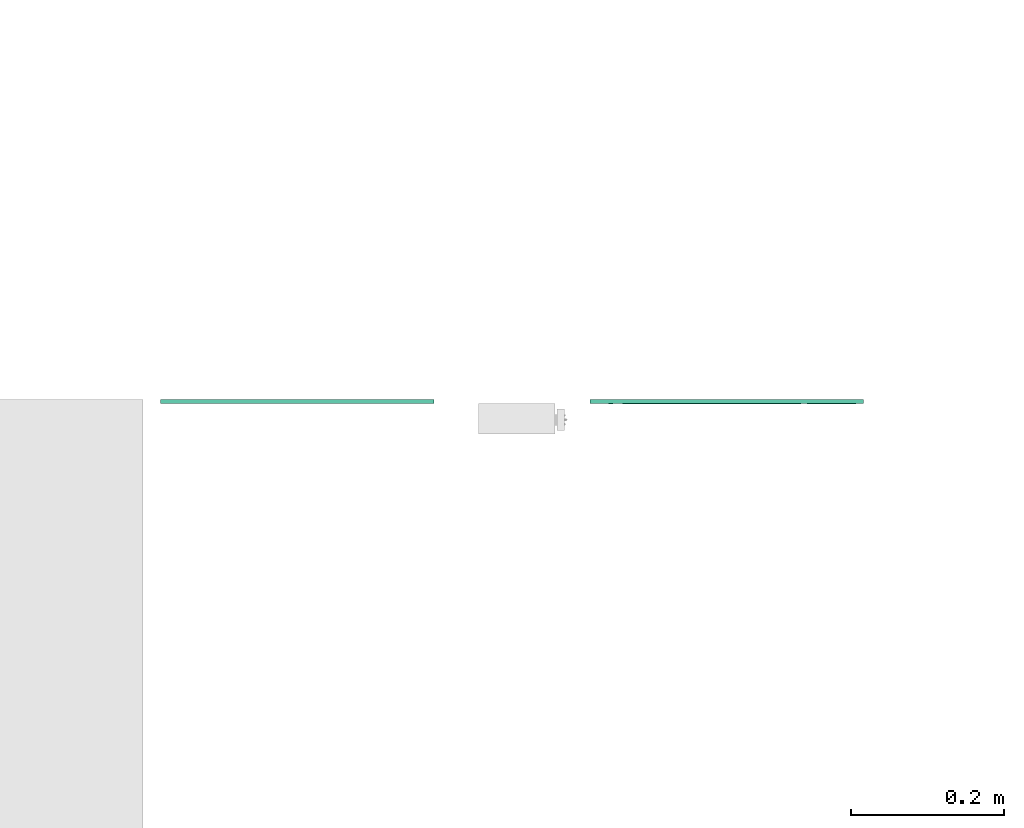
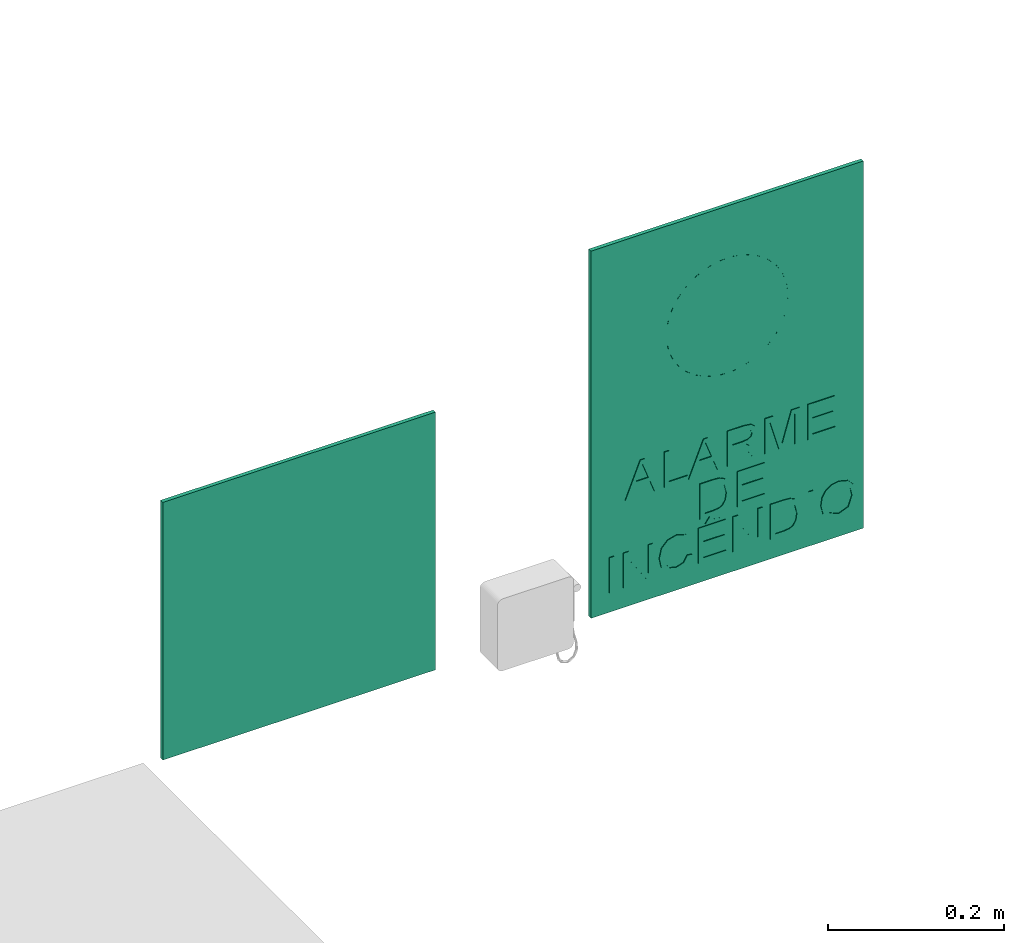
# One storey, part 3 of 9: 2 flow terminals.
"""IFC2X3 building model written with IfcOpenShell, lengths in metres."""

from ifc_helpers import new_model, entity, si_unit, converted_unit, derived_unit, direction, frame, frame_2d, origin, place, context, subcontext, project, spatial, polyline, circle_curve, parameter, trimmed, segment, composite_curve, rectangle, circle, hollow_circle, outline, extrude, source, transform, mapped, material, material_list, type_object, type_shapes, element, save


model = new_model("IFC2X3")

# Units and contexts
model_context = context("Model", 3, precision=1e-05, world=origin(), true_north=direction((6.12303176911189e-17, 1.0)))
body_context = subcontext(model_context, "Body", "Model", "MODEL_VIEW")
ifc_project = project(units=[si_unit("LENGTHUNIT", "METRE"), si_unit("AREAUNIT", "SQUARE_METRE"), si_unit("VOLUMEUNIT", "CUBIC_METRE"), converted_unit("PLANEANGLEUNIT", "DEGREE", entity("IfcRatioMeasure", 0.0174532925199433), si_unit("PLANEANGLEUNIT", "RADIAN"), dimensions=[0, 0, 0, 0, 0, 0, 0]), si_unit("MASSUNIT", "GRAM", prefix="KILO"), derived_unit("MASSDENSITYUNIT", [(si_unit("MASSUNIT", "GRAM", prefix="KILO"), 1), (si_unit("LENGTHUNIT", "METRE"), -3)]), derived_unit("MOMENTOFINERTIAUNIT", [(si_unit("LENGTHUNIT", "METRE"), 4)]), si_unit("TIMEUNIT", "SECOND"), si_unit("FREQUENCYUNIT", "HERTZ"), si_unit("THERMODYNAMICTEMPERATUREUNIT", "DEGREE_CELSIUS"), derived_unit("THERMALTRANSMITTANCEUNIT", [(si_unit("MASSUNIT", "GRAM", prefix="KILO"), 1), (si_unit("THERMODYNAMICTEMPERATUREUNIT", "KELVIN"), -1), (si_unit("TIMEUNIT", "SECOND"), -3)]), derived_unit("VOLUMETRICFLOWRATEUNIT", [(si_unit("LENGTHUNIT", "METRE"), 3), (si_unit("TIMEUNIT", "SECOND"), -1)]), si_unit("ELECTRICCURRENTUNIT", "AMPERE"), si_unit("ELECTRICVOLTAGEUNIT", "VOLT"), si_unit("POWERUNIT", "WATT"), si_unit("FORCEUNIT", "NEWTON", prefix="KILO"), si_unit("ILLUMINANCEUNIT", "LUX"), si_unit("LUMINOUSFLUXUNIT", "LUMEN"), si_unit("LUMINOUSINTENSITYUNIT", "CANDELA"), derived_unit("USERDEFINED", [(si_unit("MASSUNIT", "GRAM", prefix="KILO"), -1), (si_unit("LENGTHUNIT", "METRE"), -2), (si_unit("TIMEUNIT", "SECOND"), 3), (si_unit("LUMINOUSFLUXUNIT", "LUMEN"), 1)]), derived_unit("LINEARVELOCITYUNIT", [(si_unit("LENGTHUNIT", "METRE"), 1), (si_unit("TIMEUNIT", "SECOND"), -1)]), si_unit("PRESSUREUNIT", "PASCAL"), derived_unit("USERDEFINED", [(si_unit("LENGTHUNIT", "METRE"), -2), (si_unit("MASSUNIT", "GRAM", prefix="KILO"), 1), (si_unit("TIMEUNIT", "SECOND"), -2)]), derived_unit("LINEARFORCEUNIT", [(si_unit("MASSUNIT", "GRAM", prefix="KILO"), 1), (si_unit("LENGTHUNIT", "METRE"), 1), (si_unit("TIMEUNIT", "SECOND"), -2), (si_unit("LENGTHUNIT", "METRE"), -1)]), derived_unit("PLANARFORCEUNIT", [(si_unit("MASSUNIT", "GRAM", prefix="KILO"), 1), (si_unit("LENGTHUNIT", "METRE"), 1), (si_unit("TIMEUNIT", "SECOND"), -2), (si_unit("LENGTHUNIT", "METRE"), -2)])], contexts=[model_context])

# Site, building, storey
site_placement = place(None, origin())
site = spatial("IfcSite", under=ifc_project, at=site_placement, Name="Default", CompositionType="ELEMENT")
building_placement = place(site_placement, origin())
building = spatial("IfcBuilding", under=site, at=building_placement, Name="C.L. MONSENHOR ANTÔNIO SAMPAIO", CompositionType="ELEMENT")
storey_placement = place(building_placement, origin())
storey = spatial("IfcBuildingStorey", under=building, at=storey_placement, Name="TÉRREO", CompositionType="ELEMENT", Elevation=0.0)

# Flow terminals
ifc_material_1 = material(Name="VERMELHO")
ifc_material_2 = material(Name="Branco")
ifc_material_list_1 = material_list([ifc_material_1, ifc_material_2])
distribution_element_type_1 = type_object("IfcDistributionElementType", Name="E2:10 metros", material=ifc_material_1)
shared_shape_1 = source(origin(), body_context, "Body", "SweptSolid", [
    extrude(outline(polyline([(-0.115, -0.115), (0.115, -0.115), (0.115, 0.115), (-0.115, 0.115), (-0.115, -0.115)]), holes=[polyline([(-0.0969999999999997, 0.097), (0.0969999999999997, 0.097), (0.0969999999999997, -0.097), (-0.0969999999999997, -0.097), (-0.0969999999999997, 0.097)])]), frame((0.0, -0.005, 0.353240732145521), z_axis=(0.0, 1.0, 0.0), x_axis=(0.0, 0.0, -1.0)), (0.0, 0.0, 1.0), 0.005),
    extrude(hollow_circle(Radius=0.08, WallThickness=0.05, at=frame_2d((3.96523122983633e-19, -4.06075173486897e-16), x_axis=(1.0, 0.0))), frame((0.0, -0.005, 0.357999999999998), z_axis=(0.0, 1.0, 0.0), x_axis=(1.0, 0.0, 0.0)), (0.0, 0.0, 1.0), 0.005),
    extrude(outline(polyline([(-0.0232588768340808, -0.0146945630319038), (0.0297491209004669, -0.0146945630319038), (0.0316918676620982, -0.00982759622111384), (-0.00674552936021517, 0.0266746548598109), (-0.00915613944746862, 0.0206355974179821), (0.0030424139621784, 0.00969678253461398), (-0.00447459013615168, -0.00913480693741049), (-0.0208482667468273, -0.00865550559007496), (-0.0232588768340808, -0.0146945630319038)]), holes=[polyline([(0.00207844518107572, -0.009317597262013), (0.00792450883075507, 0.00532795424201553), (0.0175212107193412, -0.00327813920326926), (0.0250051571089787, -0.00997968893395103), (0.0160884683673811, -0.00972047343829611), (0.00207844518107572, -0.009317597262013)])]), frame((-0.111952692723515, -0.006, 0.16473474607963), z_axis=(0.0, 1.0, 0.0), x_axis=(0.370725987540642, 0.0, 0.92874229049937)), (0.0, 0.0, 1.0), 0.006),
    extrude(outline(polyline([(-0.0184615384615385, -0.0123076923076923), (0.0307692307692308, -0.0123076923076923), (0.0307692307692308, -0.00615384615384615), (-0.0123076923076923, -0.00615384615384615), (-0.0123076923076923, 0.0184615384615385), (-0.0184615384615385, 0.0184615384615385), (-0.0184615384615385, -0.0123076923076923)])), frame((-0.0707973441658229, -0.006, 0.167042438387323), z_axis=(0.0, 1.0, 0.0), x_axis=(0.0, 0.0, 1.0)), (0.0, 0.0, 1.0), 0.006),
    extrude(outline(polyline([(-0.0232588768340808, -0.0146945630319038), (0.0297491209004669, -0.0146945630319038), (0.0316918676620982, -0.00982759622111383), (-0.00674552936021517, 0.0266746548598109), (-0.00915613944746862, 0.0206355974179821), (0.0030424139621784, 0.00969678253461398), (-0.00447459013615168, -0.00913480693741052), (-0.0208482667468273, -0.00865550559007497), (-0.0232588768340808, -0.0146945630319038)]), holes=[polyline([(0.00207844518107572, -0.00931759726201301), (0.00792450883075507, 0.00532795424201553), (0.0175212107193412, -0.00327813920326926), (0.0250051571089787, -0.00997968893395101), (0.0160884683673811, -0.00972047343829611), (0.00207844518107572, -0.00931759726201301)])]), frame((-0.0288757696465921, -0.006, 0.16473474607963), z_axis=(0.0, 1.0, 0.0), x_axis=(0.370725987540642, 0.0, 0.92874229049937)), (0.0, 0.0, 1.0), 0.006),
    extrude(outline(polyline([(-0.0220657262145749, -0.0231072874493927), (0.0271650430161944, -0.0231072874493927), (0.0271650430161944, -0.0018933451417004), (0.0258369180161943, 0.0079564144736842), (0.0211373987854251, 0.0133410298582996), (0.0136914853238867, 0.0153542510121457), (0.00482129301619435, 0.0120189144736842), (0.000241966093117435, 0.0017124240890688), (-0.00239024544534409, 0.005210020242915), (-0.00872438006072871, 0.0101980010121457), (-0.0220657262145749, 0.0184071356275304), (-0.0220657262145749, 0.0112556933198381), (-0.0118613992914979, 0.00484944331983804), (-0.00510659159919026, 0.000222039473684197), (-0.00191548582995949, -0.00302916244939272), (-0.000743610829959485, -0.00595584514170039), (-0.000527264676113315, -0.00952555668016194), (-0.000527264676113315, -0.0169534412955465), (-0.0220657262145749, -0.0169534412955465), (-0.0220657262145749, -0.0231072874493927)]), holes=[polyline([(0.00562658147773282, -0.0169534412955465), (0.00562658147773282, -0.00317940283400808), (0.00649797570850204, 0.00384583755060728), (0.0092864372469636, 0.00783622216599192), (0.0134631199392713, 0.00920040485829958), (0.0188837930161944, 0.00659824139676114), (0.0210111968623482, -0.0016289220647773), (0.0210111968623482, -0.0169534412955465), (0.00562658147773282, -0.0169534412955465)])]), frame((0.0230791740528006, -0.006, 0.170646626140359), z_axis=(0.0, 1.0, 0.0), x_axis=(0.0, 0.0, 1.0)), (0.0, 0.0, 1.0), 0.006),
    extrude(outline(polyline([(-0.0213349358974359, -0.0227035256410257), (0.0278958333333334, -0.0227035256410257), (0.0278958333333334, -0.0121145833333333), (-0.00680368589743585, -0.00204246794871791), (-0.014051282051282, -1.12179487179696e-05), (-0.00620272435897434, 0.00218830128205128), (0.0278958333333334, 0.0120921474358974), (0.0278958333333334, 0.0226810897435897), (-0.0213349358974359, 0.0226810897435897), (-0.0213349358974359, 0.0165272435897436), (0.0217419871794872, 0.0165272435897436), (-0.0213349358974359, 0.00415945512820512), (-0.0213349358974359, -0.00418189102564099), (0.0217419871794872, -0.0165496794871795), (-0.0213349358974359, -0.0165496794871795), (-0.0213349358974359, -0.0227035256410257)])), frame((0.0719061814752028, -0.006, 0.16991583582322), z_axis=(0.0, 1.0, 0.0), x_axis=(0.0, 0.0, 1.0)), (0.0, 0.0, 1.0), 0.006),
    extrude(outline(polyline([(-0.0248717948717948, -0.0196153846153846), (0.0243589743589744, -0.0196153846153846), (0.0243589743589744, 0.0157692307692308), (0.0182051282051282, 0.0157692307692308), (0.0182051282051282, -0.0134615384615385), (0.0035897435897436, -0.0134615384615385), (0.0035897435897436, 0.0142307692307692), (-0.00256410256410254, 0.0142307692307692), (-0.00256410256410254, -0.0134615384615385), (-0.0187179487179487, -0.0134615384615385), (-0.0187179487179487, 0.0165384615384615), (-0.0248717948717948, 0.0165384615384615), (-0.0248717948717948, -0.0196153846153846)])), frame((0.124971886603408, -0.006, 0.173452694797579), z_axis=(0.0, 1.0, 0.0), x_axis=(0.0, 0.0, 1.0)), (0.0, 0.0, 1.0), 0.006),
    extrude(outline(polyline([(-0.0233603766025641, -0.0255023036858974), (0.0258703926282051, -0.0255023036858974), (0.0258703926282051, -0.00851913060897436), (0.0251612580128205, 0.000266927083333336), (0.0216396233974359, 0.00750250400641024), (0.0132261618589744, 0.0133318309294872), (0.00151943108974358, 0.0152669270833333), (-0.00841446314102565, 0.0139568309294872), (-0.0155839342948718, 0.0105914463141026), (-0.020049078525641, 0.00609625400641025), (-0.022519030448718, 0.000212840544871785), (-0.0233603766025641, -0.00770182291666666), (-0.0233603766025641, -0.0255023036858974)]), holes=[polyline([(-0.017206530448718, -0.0193484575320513), (-0.017206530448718, -0.00845903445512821), (-0.0163171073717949, -0.000538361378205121), (-0.0138050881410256, 0.00402894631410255), (-0.00769330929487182, 0.00777293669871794), (0.00161558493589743, 0.00911308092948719), (0.0132742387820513, 0.00648687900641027), (0.018730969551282, 9.86578525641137e-05), (0.019716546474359, -0.00862730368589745), (0.019716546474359, -0.0193484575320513), (-0.017206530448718, -0.0193484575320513)])]), frame((-0.0106796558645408, -0.006, 0.111172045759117), z_axis=(0.0, 1.0, 0.0), x_axis=(0.0, 0.0, 1.0)), (0.0, 0.0, 1.0), 0.006),
    extrude(outline(polyline([(-0.0248717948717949, -0.0196153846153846), (0.0243589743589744, -0.0196153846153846), (0.0243589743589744, 0.0157692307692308), (0.0182051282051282, 0.0157692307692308), (0.0182051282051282, -0.0134615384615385), (0.00358974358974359, -0.0134615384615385), (0.00358974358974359, 0.0142307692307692), (-0.00256410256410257, 0.0142307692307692), (-0.00256410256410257, -0.0134615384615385), (-0.0187179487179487, -0.0134615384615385), (-0.0187179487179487, 0.0165384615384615), (-0.0248717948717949, 0.0165384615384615), (-0.0248717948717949, -0.0196153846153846)])), frame((0.0326641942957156, -0.006, 0.112683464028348), z_axis=(0.0, 1.0, 0.0), x_axis=(0.0, 0.0, 1.0)), (0.0, 0.0, 1.0), 0.006),
    extrude(rectangle(XDim=0.006, YDim=0.00615384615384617, at=frame_2d((0.0, -1.69135538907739e-17), x_axis=(1.0, 0.0))), frame((-0.151951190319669, -0.003, 0.0270424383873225), z_axis=(0.0, 0.0, 1.0), x_axis=(0.0, 1.0, 0.0)), (0.0, 0.0, 1.0), 0.0492307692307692),
    extrude(outline(polyline([(-0.0246165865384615, -0.0192307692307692), (0.0246141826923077, -0.0192307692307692), (0.0246141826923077, -0.0126442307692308), (-0.0143882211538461, 0.0130769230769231), (0.0246141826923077, 0.0130769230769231), (0.0246141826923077, 0.0192307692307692), (-0.0246165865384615, 0.0192307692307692), (-0.0246165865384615, 0.0126442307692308), (0.0143978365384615, -0.0130769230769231), (-0.0246165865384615, -0.0130769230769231), (-0.0246165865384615, -0.0192307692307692)])), frame((-0.117335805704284, -0.006, 0.0516590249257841), z_axis=(0.0, 1.0, 0.0), x_axis=(0.0, 0.0, 1.0)), (0.0, 0.0, 1.0), 0.006),
    extrude(outline(polyline([(0.0173971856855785, 0.00315678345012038), (0.0237522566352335, 0.00315678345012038), (0.0197857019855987, 0.0169950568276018), (0.00837577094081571, 0.0243492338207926), (-0.00483237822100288, 0.0244155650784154), (-0.014444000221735, 0.0172244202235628), (-0.0202261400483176, 0.00512371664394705), (-0.0207434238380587, -0.00855775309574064), (-0.0148834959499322, -0.0190239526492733), (-0.00417070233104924, -0.0248454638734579), (0.00872193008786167, -0.0242098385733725), (0.0181494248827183, -0.0154941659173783), (0.0125565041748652, -0.0125379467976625), (0.00577939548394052, -0.0186042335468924), (-0.00286717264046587, -0.0188264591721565), (-0.011532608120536, -0.0138741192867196), (-0.0150347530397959, -0.00567282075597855), (-0.0142701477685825, 0.00357577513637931), (-0.0098254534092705, 0.0133774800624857), (-0.00253642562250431, 0.018492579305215), (0.00624589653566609, 0.0185432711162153), (0.0146026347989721, 0.0132360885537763), (0.0173971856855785, 0.00315678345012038)])), frame((-0.0687786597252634, -0.006, 0.0519424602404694), z_axis=(0.0, 1.0, 0.0), x_axis=(0.968336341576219, 0.0, -0.249649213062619)), (0.0, 0.0, 1.0), 0.006),
    extrude(outline(polyline([(-0.0248717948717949, -0.0196153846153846), (0.0243589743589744, -0.0196153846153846), (0.0243589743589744, 0.0157692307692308), (0.0182051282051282, 0.0157692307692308), (0.0182051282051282, -0.0134615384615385), (0.0035897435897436, -0.0134615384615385), (0.0035897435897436, 0.0142307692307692), (-0.00256410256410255, 0.0142307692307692), (-0.00256410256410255, -0.0134615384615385), (-0.0187179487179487, -0.0134615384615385), (-0.0187179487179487, 0.0165384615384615), (-0.0248717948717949, 0.0165384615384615), (-0.0248717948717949, -0.0196153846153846)])), frame((-0.0184896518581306, -0.006, 0.0519142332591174), z_axis=(0.0, 1.0, 0.0), x_axis=(0.0, 0.0, 1.0)), (0.0, 0.0, 1.0), 0.006),
    extrude(outline(polyline([(-0.0246165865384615, -0.0192307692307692), (0.0246141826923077, -0.0192307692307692), (0.0246141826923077, -0.0126442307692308), (-0.0143882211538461, 0.0130769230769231), (0.0246141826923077, 0.0130769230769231), (0.0246141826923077, 0.0192307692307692), (-0.0246165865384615, 0.0192307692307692), (-0.0246165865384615, 0.0126442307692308), (0.0143978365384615, -0.0130769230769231), (-0.0246165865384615, -0.0130769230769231), (-0.0246165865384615, -0.0192307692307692)])), frame((0.0265103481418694, -0.006, 0.0516590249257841), z_axis=(0.0, 1.0, 0.0), x_axis=(0.0, 0.0, 1.0)), (0.0, 0.0, 1.0), 0.006),
    extrude(outline(polyline([(-0.0233603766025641, -0.0255023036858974), (0.0258703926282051, -0.0255023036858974), (0.0258703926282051, -0.00851913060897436), (0.0251612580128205, 0.000266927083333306), (0.0216396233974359, 0.00750250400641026), (0.0132261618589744, 0.0133318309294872), (0.0015194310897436, 0.0152669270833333), (-0.00841446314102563, 0.0139568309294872), (-0.0155839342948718, 0.0105914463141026), (-0.020049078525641, 0.00609625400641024), (-0.0225190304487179, 0.000212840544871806), (-0.0233603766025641, -0.00770182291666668), (-0.0233603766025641, -0.0255023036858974)]), holes=[polyline([(-0.0172065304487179, -0.0193484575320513), (-0.0172065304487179, -0.00845903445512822), (-0.0163171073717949, -0.000538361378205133), (-0.0138050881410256, 0.00402894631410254), (-0.00769330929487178, 0.00777293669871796), (0.00161558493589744, 0.00911308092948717), (0.0132742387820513, 0.00648687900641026), (0.0187309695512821, 9.8657852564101e-05), (0.019716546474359, -0.00862730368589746), (0.019716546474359, -0.0193484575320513), (-0.0172065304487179, -0.0193484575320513)])]), frame((0.0820126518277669, -0.006, 0.0504028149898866), z_axis=(0.0, 1.0, 0.0), x_axis=(0.0, 0.0, 1.0)), (0.0, 0.0, 1.0), 0.006),
    extrude(rectangle(XDim=0.006, YDim=0.00615384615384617, at=frame_2d((0.0, 1.69135538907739e-17), x_axis=(1.0, 0.0))), frame((0.109587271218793, -0.003, 0.0270424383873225), z_axis=(0.0, 0.0, 1.0), x_axis=(0.0, 1.0, 0.0)), (0.0, 0.0, 1.0), 0.0492307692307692),
    extrude(outline(polyline([(-0.00518332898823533, -0.0217127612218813), (0.00582601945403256, -0.0217127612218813), (0.0147036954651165, -0.0180732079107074), (0.0209490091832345, -0.011414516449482), (0.0240612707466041, -0.00235710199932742), (0.0226774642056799, 0.0102373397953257), (0.0149674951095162, 0.0198104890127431), (0.00236779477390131, 0.0246021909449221), (-0.011285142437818, 0.0236149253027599), (-0.0213755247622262, 0.0165055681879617), (-0.0261464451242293, 0.00517292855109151), (-0.0246813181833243, -0.0075674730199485), (-0.0168809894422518, -0.0171056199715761), (-0.00518332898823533, -0.0217127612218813)]), holes=[polyline([(-0.0043257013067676, -0.0156186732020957), (-0.0170104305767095, -0.00872958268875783), (-0.0200666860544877, 0.00422022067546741), (-0.0132660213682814, 0.0157939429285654), (0.00149828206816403, 0.018509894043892), (0.0112294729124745, 0.0149284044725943), (0.0169683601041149, 0.00788273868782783), (0.0179815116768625, -0.00140439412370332), (0.0116103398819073, -0.0128301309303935), (0.00497091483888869, -0.0157221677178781), (-0.0043257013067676, -0.0156186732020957)])]), frame((0.144906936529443, -0.006, 0.052898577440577), z_axis=(0.0, 1.0, 0.0), x_axis=(0.149021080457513, 0.0, 0.988834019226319)), (0.0, 0.0, 1.0), 0.006),
    extrude(outline(polyline([(-0.00219091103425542, 0.00148455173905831), (0.00486968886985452, 0.00148455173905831), (0.00788668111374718, 0.00684809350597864), (-0.00336418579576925, 0.00567481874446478), (-0.0063811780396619, 0.000311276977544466), (-0.00191854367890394, -0.0105834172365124), (0.00109844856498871, -0.00521987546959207), (-0.00219091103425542, 0.00148455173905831)])), frame((-0.0194237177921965, -0.006, 0.0828666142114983), z_axis=(0.0, 1.0, 0.0), x_axis=(-0.490261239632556, 0.0, -0.871575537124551)), (0.0, 0.0, 1.0), 0.006),
    extrude(outline(polyline([(-0.179, -0.255), (0.179000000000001, -0.255), (0.179000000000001, 0.255), (-0.179000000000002, 0.255), (-0.179, -0.255)]), holes=[polyline([(-0.115, 0.213240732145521), (0.115, 0.213240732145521), (0.115, -0.0167592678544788), (-0.115, -0.0167592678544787), (-0.115, 0.213240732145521)])]), frame((0.0, -0.005, 0.255), z_axis=(0.0, 1.0, 0.0), x_axis=(-1.0, 0.0, 0.0)), (0.0, 0.0, 1.0), 0.005),
    extrude(outline(polyline([(-0.097, -0.0969999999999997), (0.097, -0.0969999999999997), (0.097, 0.0969999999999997), (-0.097, 0.0969999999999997), (-0.097, -0.0969999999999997)]), holes=[composite_curve([segment(trimmed(circle_curve(frame_2d((0.0, -0.00475926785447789), x_axis=(1.0, 0.0)), 0.08), [parameter(180.0)], [parameter(360.0)], True, "PARAMETER"), False, "CONTINUOUS"), segment(trimmed(circle_curve(frame_2d((0.0, -0.00475926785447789), x_axis=(1.0, 0.0)), 0.08), [parameter(0.0)], [parameter(180.0)], True, "PARAMETER"), False, "CONTINUOUS")], self_intersect=False)]), frame((0.0, -0.005, 0.353240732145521), z_axis=(0.0, 1.0, 0.0), x_axis=(1.0, 0.0, 0.0)), (0.0, 0.0, 1.0), 0.005),
    extrude(circle(Radius=0.03, at=frame_2d((0.0, -1.35358391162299e-16), x_axis=(1.0, 0.0))), frame((0.0, -0.005, 0.357999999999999), z_axis=(0.0, 1.0, 0.0), x_axis=(1.0, 0.0, 0.0)), (0.0, 0.0, 1.0), 0.005),
])
type_shapes(distribution_element_type_1, [shared_shape_1])
flow_terminal_1_placement = place(building_placement, frame((-2.80608590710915, -31.9530663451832, 0.0)))
element("IfcFlowTerminal", 1, at=flow_terminal_1_placement, inside=storey, type_object=distribution_element_type_1, material=ifc_material_list_1, Name="E2:10 metros", ObjectType="E2:10 metros", context=body_context, shape_type="MappedRepresentation", body=[
    mapped(shared_shape_1, transform((0.0, 0.0, 0.0), scale=1.0)),
])
ifc_material_list_2 = material_list([ifc_material_2, ifc_material_1])
distribution_element_type_2 = type_object("IfcDistributionElementType", Name="E5:10 metros", material=ifc_material_2)
shared_shape_2 = source(origin(), body_context, "Body", "SweptSolid", [
    extrude(outline(composite_curve([segment(polyline([(-0.254128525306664, -0.0465583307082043), (-0.0191285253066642, -0.0465583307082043)]), True, "CONTINUOUS"), segment(trimmed(circle_curve(frame_2d((-0.0664803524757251, 0.00975665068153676), x_axis=(0.0, 1.0)), 0.0735769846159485), [parameter(220.058428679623)], [parameter(257.560611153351)], True, "PARAMETER"), True, "CONTINUOUS"), segment(polyline([(0.00536937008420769, -0.00609232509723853), (0.0303693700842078, -0.006092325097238)]), True, "CONTINUOUS"), segment(polyline([(0.0303693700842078, -0.006092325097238), (0.0303693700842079, -0.0230808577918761)]), True, "CONTINUOUS"), segment(polyline([(0.0303693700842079, -0.0230808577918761), (0.0043083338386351, -0.0617179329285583)]), True, "CONTINUOUS"), segment(polyline([(0.0043083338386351, -0.0617179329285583), (-0.0104637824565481, -0.0643226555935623)]), True, "CONTINUOUS"), segment(polyline([(-0.0104637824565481, -0.0643226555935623), (-0.010463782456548, -0.0743226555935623)]), True, "CONTINUOUS"), segment(polyline([(-0.010463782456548, -0.0743226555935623), (0.0120002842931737, -0.0743226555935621)]), True, "CONTINUOUS"), segment(polyline([(0.0120002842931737, -0.0743226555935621), (0.0533610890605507, -0.0267424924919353)]), True, "CONTINUOUS"), segment(polyline([(0.0533610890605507, -0.0267424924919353), (0.0533610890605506, -0.00174249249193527)]), True, "CONTINUOUS"), segment(polyline([(0.0533610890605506, -0.00174249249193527), (0.0602467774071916, -0.00174249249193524)]), True, "CONTINUOUS"), segment(polyline([(0.0602467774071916, -0.00174249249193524), (0.0602467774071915, 0.0232575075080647)]), True, "CONTINUOUS"), segment(polyline([(0.0602467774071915, 0.0232575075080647), (0.0533610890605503, 0.0232575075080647)]), True, "CONTINUOUS"), segment(polyline([(0.0533610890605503, 0.0232575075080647), (0.0533610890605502, 0.0463624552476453)]), True, "CONTINUOUS"), segment(polyline([(0.0533610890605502, 0.0463624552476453), (0.0451773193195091, 0.0545462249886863)]), True, "CONTINUOUS"), segment(polyline([(0.0451773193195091, 0.0545462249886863), (0.0401773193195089, 0.0545462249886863)]), True, "CONTINUOUS"), segment(polyline([(0.0401773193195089, 0.0545462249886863), (0.0303693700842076, 0.0447382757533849)]), True, "CONTINUOUS"), segment(polyline([(0.0303693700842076, 0.0447382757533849), (0.0303693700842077, 0.0272220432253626)]), True, "CONTINUOUS"), segment(polyline([(0.0303693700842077, 0.0272220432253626), (0.00499364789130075, 0.0272220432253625)]), True, "CONTINUOUS"), segment(trimmed(circle_curve(frame_2d((-0.0664803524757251, 0.00975665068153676), x_axis=(0.0, 1.0)), 0.0735769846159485), [parameter(283.731707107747)], [parameter(319.941571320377)], True, "PARAMETER"), True, "CONTINUOUS"), segment(polyline([(-0.019128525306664, 0.0660716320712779), (-0.254128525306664, 0.0660716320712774)]), True, "CONTINUOUS"), segment(polyline([(-0.254128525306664, 0.0660716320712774), (-0.254128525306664, -0.0465583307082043)]), True, "CONTINUOUS")], self_intersect=False)), frame((-0.00975665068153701, -0.005, 0.271403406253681), z_axis=(0.0, 1.0, 0.0), x_axis=(0.0, 0.0, 1.0)), (0.0, 0.0, 1.0), 0.005),
    extrude(outline(polyline([(-0.179, -0.178999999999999), (0.179000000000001, -0.178999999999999), (0.179000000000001, 0.178999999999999), (-0.179000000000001, 0.178999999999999), (-0.179, -0.178999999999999)]), holes=[composite_curve([segment(polyline([(-0.0563149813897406, -0.161725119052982), (-0.056314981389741, 0.0732748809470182)]), True, "CONTINUOUS"), segment(trimmed(circle_curve(frame_2d((0.0, 0.025923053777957), x_axis=(-1.0, 0.0)), 0.0735769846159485), [parameter(283.731707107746)], [parameter(319.941571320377)], True, "PARAMETER"), False, "CONTINUOUS"), segment(polyline([(-0.0174653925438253, 0.0973970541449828), (-0.0174653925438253, 0.12277277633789)]), True, "CONTINUOUS"), segment(polyline([(-0.0174653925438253, 0.12277277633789), (-0.0349816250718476, 0.12277277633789)]), True, "CONTINUOUS"), segment(polyline([(-0.0349816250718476, 0.12277277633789), (-0.044789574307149, 0.132580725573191)]), True, "CONTINUOUS"), segment(polyline([(-0.044789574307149, 0.132580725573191), (-0.044789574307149, 0.137580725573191)]), True, "CONTINUOUS"), segment(polyline([(-0.044789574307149, 0.137580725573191), (-0.0366058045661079, 0.145764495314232)]), True, "CONTINUOUS"), segment(polyline([(-0.0366058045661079, 0.145764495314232), (-0.0135008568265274, 0.145764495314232)]), True, "CONTINUOUS"), segment(polyline([(-0.0135008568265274, 0.145764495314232), (-0.0135008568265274, 0.152650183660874)]), True, "CONTINUOUS"), segment(polyline([(-0.0135008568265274, 0.152650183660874), (0.0114991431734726, 0.152650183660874)]), True, "CONTINUOUS"), segment(polyline([(0.0114991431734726, 0.152650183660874), (0.0114991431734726, 0.145764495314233)]), True, "CONTINUOUS"), segment(polyline([(0.0114991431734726, 0.145764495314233), (0.0364991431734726, 0.145764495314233)]), True, "CONTINUOUS"), segment(polyline([(0.0364991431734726, 0.145764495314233), (0.0840793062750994, 0.104403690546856)]), True, "CONTINUOUS"), segment(polyline([(0.0840793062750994, 0.104403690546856), (0.0840793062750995, 0.081939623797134)]), True, "CONTINUOUS"), segment(polyline([(0.0840793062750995, 0.081939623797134), (0.0740793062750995, 0.0819396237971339)]), True, "CONTINUOUS"), segment(polyline([(0.0740793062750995, 0.0819396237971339), (0.0714745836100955, 0.0967117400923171)]), True, "CONTINUOUS"), segment(polyline([(0.0714745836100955, 0.0967117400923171), (0.0328375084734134, 0.12277277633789)]), True, "CONTINUOUS"), segment(polyline([(0.0328375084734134, 0.12277277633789), (0.0158489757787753, 0.12277277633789)]), True, "CONTINUOUS"), segment(polyline([(0.0158489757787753, 0.12277277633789), (0.0158489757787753, 0.0977727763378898)]), True, "CONTINUOUS"), segment(trimmed(circle_curve(frame_2d((0.0, 0.025923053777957), x_axis=(-1.0, 0.0)), 0.0735769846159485), [parameter(220.058428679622)], [parameter(257.560611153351)], True, "PARAMETER"), False, "CONTINUOUS"), segment(polyline([(0.0563149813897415, 0.0732748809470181), (0.0563149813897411, -0.161725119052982)]), True, "CONTINUOUS"), segment(polyline([(0.0563149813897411, -0.161725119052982), (-0.0563149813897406, -0.161725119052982)]), True, "CONTINUOUS")], self_intersect=False)]), frame((0.0, -0.005, 0.178999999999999), z_axis=(0.0, 1.0, 0.0), x_axis=(-1.0, 0.0, 0.0)), (0.0, 0.0, 1.0), 0.005),
])
type_shapes(distribution_element_type_2, [shared_shape_2])
flow_terminal_2_placement = place(building_placement, frame((-3.3685812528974, -31.9530663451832, 0.0)))
element("IfcFlowTerminal", 2, at=flow_terminal_2_placement, inside=storey, type_object=distribution_element_type_2, material=ifc_material_list_2, Name="E5:10 metros", ObjectType="E5:10 metros", context=body_context, shape_type="MappedRepresentation", body=[
    mapped(shared_shape_2, transform((0.0, 0.0, 0.0), scale=1.0)),
])

save(model, "model.ifc")
